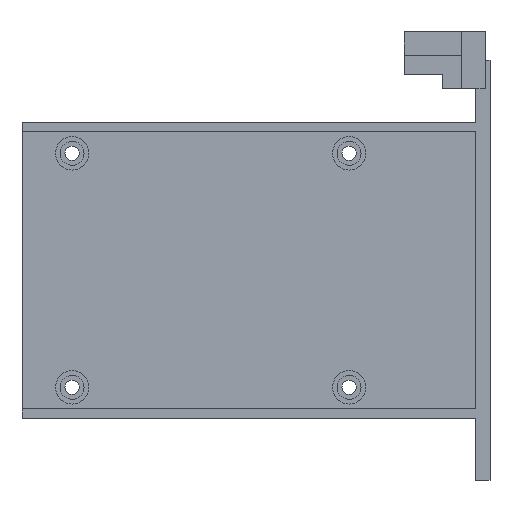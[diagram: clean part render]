
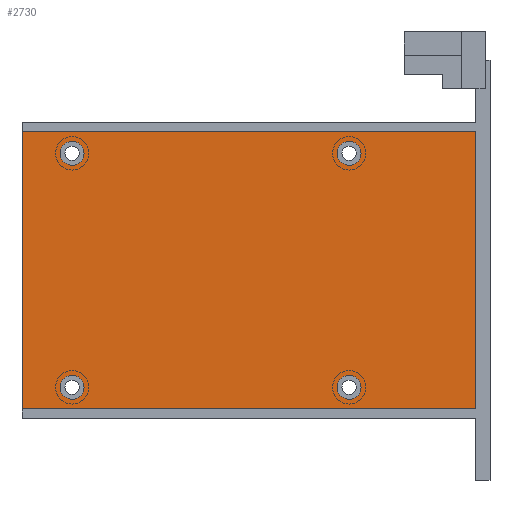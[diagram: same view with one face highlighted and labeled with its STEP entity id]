
A CAD part, left-side view. The second image highlights one B-rep face of the part: STEP entity #2730.
In plain terms, the highlighted planar face has unit normal (-1, 0, 0).
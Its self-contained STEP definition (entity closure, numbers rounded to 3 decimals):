
#2294 = VERTEX_POINT('',#2295);
#2295 = CARTESIAN_POINT('',(244.85,92.,-73.));
#2301 = EDGE_CURVE('',#2294,#2302,#2304,.T.);
#2302 = VERTEX_POINT('',#2303);
#2303 = CARTESIAN_POINT('',(244.85,92.,-15.));
#2304 = LINE('',#2305,#2306);
#2305 = CARTESIAN_POINT('',(244.85,92.,-75.));
#2306 = VECTOR('',#2307,1.);
#2307 = DIRECTION('',(0.,0.,1.));
#2327 = VERTEX_POINT('',#2328);
#2328 = CARTESIAN_POINT('',(244.85,-3.,-15.));
#2334 = EDGE_CURVE('',#2302,#2327,#2335,.T.);
#2335 = LINE('',#2336,#2337);
#2336 = CARTESIAN_POINT('',(244.85,92.,-15.));
#2337 = VECTOR('',#2338,1.);
#2338 = DIRECTION('',(0.,-1.,0.));
#2350 = EDGE_CURVE('',#2351,#2327,#2353,.T.);
#2351 = VERTEX_POINT('',#2352);
#2352 = CARTESIAN_POINT('',(244.85,-3.,-73.));
#2353 = LINE('',#2354,#2355);
#2354 = CARTESIAN_POINT('',(244.85,-3.,-75.));
#2355 = VECTOR('',#2356,1.);
#2356 = DIRECTION('',(0.,0.,1.));
#2375 = EDGE_CURVE('',#2351,#2294,#2376,.T.);
#2376 = LINE('',#2377,#2378);
#2377 = CARTESIAN_POINT('',(244.85,-3.,-73.));
#2378 = VECTOR('',#2379,1.);
#2379 = DIRECTION('',(0.,1.,0.));
#2730 = ADVANCED_FACE('',(#2731,#2737,#2748,#2759,#2770),#2781,.F.);
#2731 = FACE_BOUND('',#2732,.F.);
#2732 = EDGE_LOOP('',(#2733,#2734,#2735,#2736));
#2733 = ORIENTED_EDGE('',*,*,#2350,.F.);
#2734 = ORIENTED_EDGE('',*,*,#2375,.T.);
#2735 = ORIENTED_EDGE('',*,*,#2301,.T.);
#2736 = ORIENTED_EDGE('',*,*,#2334,.T.);
#2737 = FACE_BOUND('',#2738,.F.);
#2738 = EDGE_LOOP('',(#2739));
#2739 = ORIENTED_EDGE('',*,*,#2740,.T.);
#2740 = EDGE_CURVE('',#2741,#2741,#2743,.T.);
#2741 = VERTEX_POINT('',#2742);
#2742 = CARTESIAN_POINT('',(244.85,79.,-68.5));
#2743 = CIRCLE('',#2744,2.5);
#2744 = AXIS2_PLACEMENT_3D('',#2745,#2746,#2747);
#2745 = CARTESIAN_POINT('',(244.85,81.5,-68.5));
#2746 = DIRECTION('',(-1.,0.,0.));
#2747 = DIRECTION('',(0.,-1.,0.));
#2748 = FACE_BOUND('',#2749,.F.);
#2749 = EDGE_LOOP('',(#2750));
#2750 = ORIENTED_EDGE('',*,*,#2751,.T.);
#2751 = EDGE_CURVE('',#2752,#2752,#2754,.T.);
#2752 = VERTEX_POINT('',#2753);
#2753 = CARTESIAN_POINT('',(244.85,79.,-19.5));
#2754 = CIRCLE('',#2755,2.5);
#2755 = AXIS2_PLACEMENT_3D('',#2756,#2757,#2758);
#2756 = CARTESIAN_POINT('',(244.85,81.5,-19.5));
#2757 = DIRECTION('',(-1.,0.,0.));
#2758 = DIRECTION('',(0.,-1.,0.));
#2759 = FACE_BOUND('',#2760,.F.);
#2760 = EDGE_LOOP('',(#2761));
#2761 = ORIENTED_EDGE('',*,*,#2762,.T.);
#2762 = EDGE_CURVE('',#2763,#2763,#2765,.T.);
#2763 = VERTEX_POINT('',#2764);
#2764 = CARTESIAN_POINT('',(244.85,21.,-68.5));
#2765 = CIRCLE('',#2766,2.5);
#2766 = AXIS2_PLACEMENT_3D('',#2767,#2768,#2769);
#2767 = CARTESIAN_POINT('',(244.85,23.5,-68.5));
#2768 = DIRECTION('',(-1.,0.,0.));
#2769 = DIRECTION('',(0.,-1.,0.));
#2770 = FACE_BOUND('',#2771,.F.);
#2771 = EDGE_LOOP('',(#2772));
#2772 = ORIENTED_EDGE('',*,*,#2773,.T.);
#2773 = EDGE_CURVE('',#2774,#2774,#2776,.T.);
#2774 = VERTEX_POINT('',#2775);
#2775 = CARTESIAN_POINT('',(244.85,21.,-19.5));
#2776 = CIRCLE('',#2777,2.5);
#2777 = AXIS2_PLACEMENT_3D('',#2778,#2779,#2780);
#2778 = CARTESIAN_POINT('',(244.85,23.5,-19.5));
#2779 = DIRECTION('',(-1.,0.,0.));
#2780 = DIRECTION('',(0.,-1.,0.));
#2781 = PLANE('',#2782);
#2782 = AXIS2_PLACEMENT_3D('',#2783,#2784,#2785);
#2783 = CARTESIAN_POINT('',(244.85,-3.,-75.));
#2784 = DIRECTION('',(1.,0.,0.));
#2785 = DIRECTION('',(0.,0.,1.));
